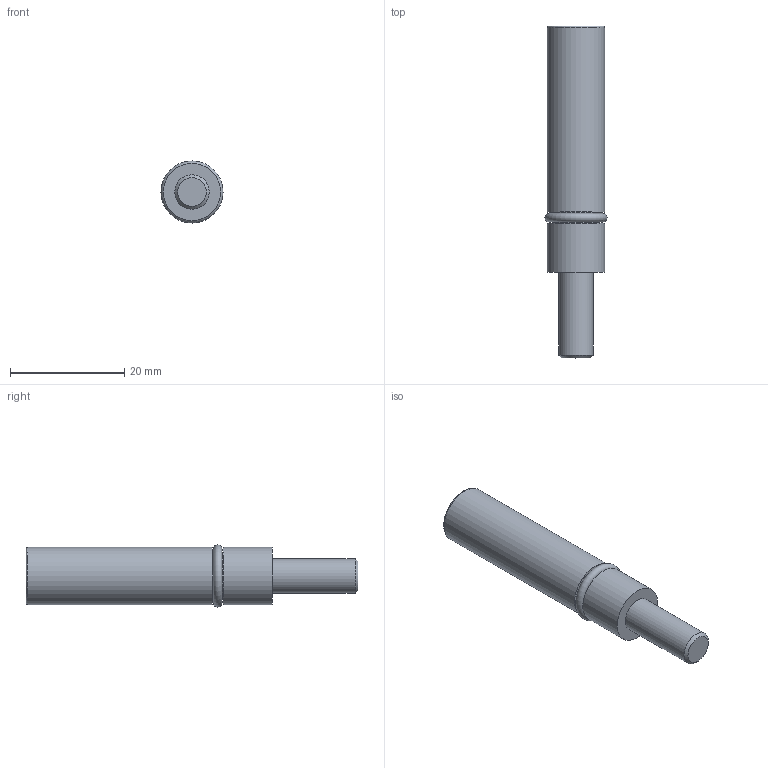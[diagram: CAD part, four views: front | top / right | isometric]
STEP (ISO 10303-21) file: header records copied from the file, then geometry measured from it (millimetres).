
FILE_DESCRIPTION (( 'STEP AP214' ), '1' );
FILE_NAME ('F11308.step', '2024-12-03T16:15:04', ( '' ), ( '' ), 'SwSTEP 2.0', 'SolidWorks 2023', '' );
FILE_SCHEMA (( 'AUTOMOTIVE_DESIGN' ));
Length unit declared in the file: millimetre
Products named in the file (1): F11308
Bounding box: 10.85 x 58 x 10.85 mm (x, y, z)
Volume: 3714.5 mm3; surface area: 2027.3 mm2
Topology: 2 solids, 2 shells, 19 faces, 36 edges, 23 vertices
Faces by surface type: plane 12, cylinder 4, torus 2, cone 1
Full cylindrical faces by diameter (mm): 6 x1, 7.85 x1, 10 x2
Entity records: 464 total; most frequent: DIRECTION 78, CARTESIAN_POINT 70, ORIENTED_EDGE 56, AXIS2_PLACEMENT_3D 30, EDGE_CURVE 28, EDGE_LOOP 28, FACE_OUTER_BOUND 23, VERTEX_POINT 22
